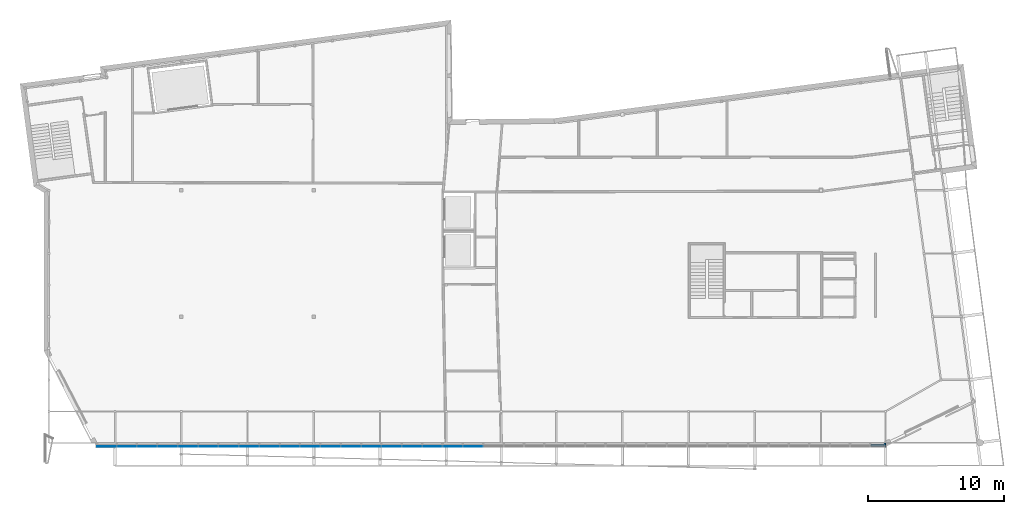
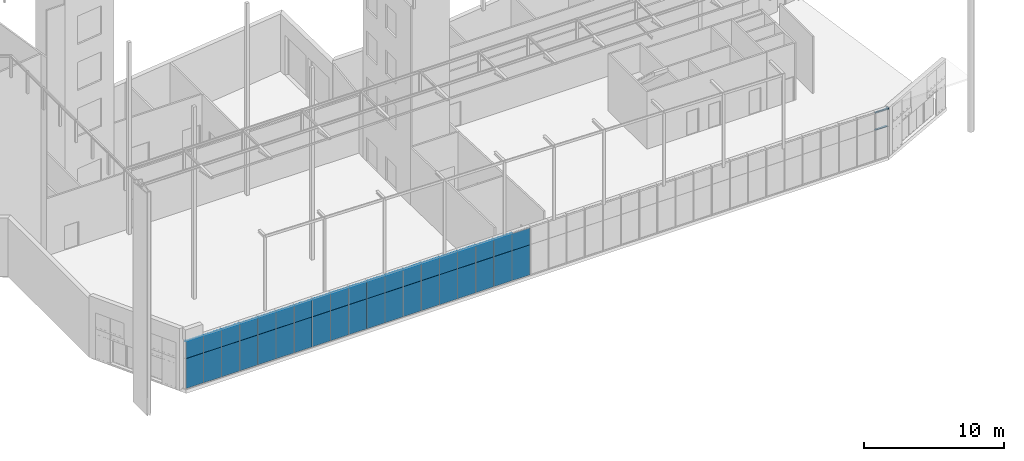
# One storey, part 20 of 40: 56 plates, 3 members, 1 element without a shape of its own.
"""IFC2X3 building model written with IfcOpenShell, lengths in metres."""

from ifc_helpers import new_model, entity, si_unit, converted_unit, money_unit, direction, frame, origin_with_axes, place, context, subcontext, project, spatial, polyline, outline, extrude, clip, halfspace, material, type_object, element, aggregate, save


model = new_model("IFC2X3")

# Units and contexts
model_context = context("Model", 3, precision=1e-05, world=origin_with_axes(), true_north=direction((0.0, 1.0)))
body_context = subcontext(model_context, "Body", "Model", "MODEL_VIEW")
ifc_project = project(units=[si_unit("LENGTHUNIT", "METRE"), si_unit("AREAUNIT", "SQUARE_METRE"), si_unit("VOLUMEUNIT", "CUBIC_METRE"), converted_unit("PLANEANGLEUNIT", "DEGREE", entity("IfcPlaneAngleMeasure", 0.0174532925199), si_unit("PLANEANGLEUNIT", "RADIAN"), dimensions=[0, 0, 0, 0, 0, 0, 0]), si_unit("SOLIDANGLEUNIT", "STERADIAN"), money_unit("EUR"), converted_unit("TIMEUNIT", "Year", entity("IfcTimeMeasure", 31556926.0), si_unit("TIMEUNIT", "SECOND"), dimensions=[0, 0, 0, 0, 0, 0, 0]), si_unit("MASSUNIT", "GRAM"), si_unit("THERMODYNAMICTEMPERATUREUNIT", "DEGREE_CELSIUS"), si_unit("LUMINOUSINTENSITYUNIT", "LUMEN")], contexts=[model_context])

# Site, building, storey
site_placement = place(None, origin_with_axes())
site = spatial("IfcSite", under=ifc_project, at=site_placement, Name="Undefined", CompositionType="ELEMENT")
building_placement = place(site_placement, origin_with_axes())
building = spatial("IfcBuilding", under=site, at=building_placement, Name="Undefined", CompositionType="ELEMENT")
storey_placement = place(building_placement, origin_with_axes())
storey = spatial("IfcBuildingStorey", under=building, at=storey_placement, Name="Rez de chauss\x8ee", CompositionType="ELEMENT", Elevation=0.0)

# Curtain wall, members, plates
curtain_wall_type = type_object("IfcCurtainWallType", Name="Type de mur-rideau", PredefinedType="NOTDEFINED")
curtain_wall_placement = place(storey_placement, frame((61.0415862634, -0.249999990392, 0.1), z_axis=(0.0, 0.0, 1.0), x_axis=(1.0, 0.0, 0.0)))
curtain_wall = element("IfcCurtainWall", 1, at=curtain_wall_placement, inside=storey, type_object=curtain_wall_type, Name="CurtainWall_02", ObjectType="CURTAIN WALL")
ifc_material_1 = material(Name="25 % 359672764")
member_type_1 = type_object("IfcMemberType", Name="Cadre 100 x 300", PredefinedType="NOTDEFINED")
member_1_placement = place(curtain_wall_placement, frame((0.558413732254, -9.60846785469e-09, 4.2), z_axis=(0.0, 0.0, 1.0), x_axis=(-1.0, 1.7206718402e-08, 0.0)))
member_1 = element("IfcMember", 2, at=member_1_placement, type_object=member_type_1, material=ifc_material_1, Name="Frame-Bnd-814", context=body_context, shape_type="Clipping", body=[
    clip(extrude(outline(polyline([(-0.0999999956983, 0.250000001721), (-0.10000000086, -0.0499999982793), (-8.60339355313e-10, -0.05), (4.30168256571e-09, 0.25), (-0.0999999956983, 0.250000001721)])), frame((0.0, 0.0, 0.0), z_axis=(0.0, 0.0, 1.0), x_axis=(-1.0, -1.7206718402e-08, 0.0)), (0.0, 0.0, 1.0), 0.1), halfspace(frame((0.05, 0.0, 0.05), z_axis=(-0.707106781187, 0.0, -0.707106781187), x_axis=(0.0, 1.0, 0.0)), True)),
])
member_type_2 = type_object("IfcMemberType", Name="Traverse 60 x 100", PredefinedType="NOTDEFINED")
member_2_placement = place(curtain_wall_placement, frame((-0.558413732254, 9.60846782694e-09, 2.7), z_axis=(1.0, -1.72067183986e-08, 0.0), x_axis=(0.0, 0.0, 1.0)))
member_2 = element("IfcMember", 3, at=member_2_placement, type_object=member_type_2, material=ifc_material_1, Name="Frame-Trs-963", context=body_context, shape_type="SweptSolid", body=[
    extrude(outline(polyline([(-0.11, -0.03), (-0.01, -0.03), (-0.01, 0.03), (-0.11, 0.03), (-0.11, -0.03)])), frame((0.0, 0.0, 0.04), z_axis=(0.0, 0.0, 1.0), x_axis=(0.0, 1.0, 0.0)), (0.0, 0.0, 1.0), 0.976827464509),
])
member_3_placement = place(curtain_wall_placement, frame((-0.558413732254, 9.60846782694e-09, 4.2), z_axis=(1.0, -1.72067183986e-08, 0.0), x_axis=(0.0, 0.0, 1.0)))
member_3 = element("IfcMember", 4, at=member_3_placement, type_object=member_type_2, material=ifc_material_1, Name="Frame-Trs-227", context=body_context, shape_type="SweptSolid", body=[
    extrude(outline(polyline([(-0.11, -0.03), (-0.01, -0.03), (-0.01, 0.03), (-0.11, 0.03), (-0.11, -0.03)])), frame((0.0, 0.0, 0.04), z_axis=(0.0, 0.0, 1.0), x_axis=(0.0, 1.0, 0.0)), (0.0, 0.0, 1.0), 0.976827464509),
])
ifc_material_2 = material(Name="Background 7019220")
plate_type_1 = type_object("IfcPlateType", Name="Panneau secondaire 1420 x 2625 x 20", PredefinedType="NOTDEFINED")
plate_1_placement = place(curtain_wall_placement, frame((-56.8084137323, 9.77486377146e-07, 1.35), z_axis=(0.0, 0.0, 1.0), x_axis=(-1.0, 1.72067183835e-08, 0.0)))
plate_1 = element("IfcPlate", 5, at=plate_1_placement, type_object=plate_type_1, material=ifc_material_2, Name="Panel-Dist-958", context=body_context, shape_type="SweptSolid", body=[
    extrude(outline(polyline([(1.49, 0.17), (1.49, 2.795), (0.07, 2.795), (0.07, 0.17), (1.49, 0.17)])), frame((0.75, 0.0, -1.45), z_axis=(0.0, 1.0, 0.0), x_axis=(-1.0, 0.0, 0.0)), (0.0, 0.0, 1.0), 0.02),
])
plate_type_2 = type_object("IfcPlateType", Name="Panneau secondaire 1480 x 2625 x 20", PredefinedType="NOTDEFINED")
plate_2_placement = place(curtain_wall_placement, frame((-55.3084137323, 9.51676299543e-07, 1.35), z_axis=(0.0, 0.0, 1.0), x_axis=(-1.0, 1.72067183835e-08, 0.0)))
plate_2 = element("IfcPlate", 6, at=plate_2_placement, type_object=plate_type_2, material=ifc_material_2, Name="Panel-Dist-958", context=body_context, shape_type="SweptSolid", body=[
    extrude(outline(polyline([(0.01, 0.17), (1.49, 0.17), (1.49, 2.795), (0.01, 2.795), (0.01, 0.17)])), frame((0.75, 0.0, -1.45), z_axis=(0.0, 1.0, 0.0), x_axis=(-1.0, 0.0, 0.0)), (0.0, 0.0, 1.0), 0.02),
])
plate_3_placement = place(curtain_wall_placement, frame((-53.8084137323, 9.25866221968e-07, 1.35), z_axis=(0.0, 0.0, 1.0), x_axis=(-1.0, 1.7206718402e-08, 0.0)))
plate_3 = element("IfcPlate", 7, at=plate_3_placement, type_object=plate_type_2, material=ifc_material_2, Name="Panel-Dist-958", context=body_context, shape_type="SweptSolid", body=[
    extrude(outline(polyline([(0.01, 0.17), (1.49, 0.17), (1.49, 2.795), (0.01, 2.795), (0.01, 0.17)])), frame((0.75, 0.0, -1.45), z_axis=(0.0, 1.0, 0.0), x_axis=(-1.0, 0.0, 0.0)), (0.0, 0.0, 1.0), 0.02),
])
plate_4_placement = place(curtain_wall_placement, frame((-52.3084137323, 9.00056144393e-07, 1.35), z_axis=(0.0, 0.0, 1.0), x_axis=(-1.0, 1.72067183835e-08, 0.0)))
plate_4 = element("IfcPlate", 8, at=plate_4_placement, type_object=plate_type_2, material=ifc_material_2, Name="Panel-Dist-958", context=body_context, shape_type="SweptSolid", body=[
    extrude(outline(polyline([(0.01, 0.17), (1.49, 0.17), (1.49, 2.795), (0.01, 2.795), (0.01, 0.17)])), frame((0.75, 0.0, -1.45), z_axis=(0.0, 1.0, 0.0), x_axis=(-1.0, 0.0, 0.0)), (0.0, 0.0, 1.0), 0.02),
])
plate_5_placement = place(curtain_wall_placement, frame((-50.8084137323, 8.74246066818e-07, 1.35), z_axis=(0.0, 0.0, 1.0), x_axis=(-1.0, 1.72067183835e-08, 0.0)))
plate_5 = element("IfcPlate", 9, at=plate_5_placement, type_object=plate_type_2, material=ifc_material_2, Name="Panel-Dist-958", context=body_context, shape_type="SweptSolid", body=[
    extrude(outline(polyline([(0.01, 0.17), (1.49, 0.17), (1.49, 2.795), (0.01, 2.795), (0.01, 0.17)])), frame((0.75, 0.0, -1.45), z_axis=(0.0, 1.0, 0.0), x_axis=(-1.0, 0.0, 0.0)), (0.0, 0.0, 1.0), 0.02),
])
plate_6_placement = place(curtain_wall_placement, frame((-49.3084137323, 8.48435989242e-07, 1.35), z_axis=(0.0, 0.0, 1.0), x_axis=(-1.0, 1.72067183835e-08, 0.0)))
plate_6 = element("IfcPlate", 10, at=plate_6_placement, type_object=plate_type_2, material=ifc_material_2, Name="Panel-Dist-958", context=body_context, shape_type="SweptSolid", body=[
    extrude(outline(polyline([(0.01, 0.17), (1.49, 0.17), (1.49, 2.795), (0.01, 2.795), (0.01, 0.17)])), frame((0.75, 0.0, -1.45), z_axis=(0.0, 1.0, 0.0), x_axis=(-1.0, 0.0, 0.0)), (0.0, 0.0, 1.0), 0.02),
])
plate_7_placement = place(curtain_wall_placement, frame((-47.8084137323, 8.22625911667e-07, 1.35), z_axis=(0.0, 0.0, 1.0), x_axis=(-1.0, 1.7206718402e-08, 0.0)))
plate_7 = element("IfcPlate", 11, at=plate_7_placement, type_object=plate_type_2, material=ifc_material_2, Name="Panel-Dist-958", context=body_context, shape_type="SweptSolid", body=[
    extrude(outline(polyline([(0.01, 0.17), (1.49, 0.17), (1.49, 2.795), (0.01, 2.795), (0.01, 0.17)])), frame((0.75, 0.0, -1.45), z_axis=(0.0, 1.0, 0.0), x_axis=(-1.0, 0.0, 0.0)), (0.0, 0.0, 1.0), 0.02),
])
plate_8_placement = place(curtain_wall_placement, frame((-46.3084137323, 7.96815834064e-07, 1.35), z_axis=(0.0, 0.0, 1.0), x_axis=(-1.0, 1.72067183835e-08, 0.0)))
plate_8 = element("IfcPlate", 12, at=plate_8_placement, type_object=plate_type_2, material=ifc_material_2, Name="Panel-Dist-958", context=body_context, shape_type="SweptSolid", body=[
    extrude(outline(polyline([(0.01, 0.17), (1.49, 0.17), (1.49, 2.795), (0.01, 2.795), (0.01, 0.17)])), frame((0.75, 0.0, -1.45), z_axis=(0.0, 1.0, 0.0), x_axis=(-1.0, 0.0, 0.0)), (0.0, 0.0, 1.0), 0.02),
])
plate_9_placement = place(curtain_wall_placement, frame((-44.8084137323, 7.71005756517e-07, 1.35), z_axis=(0.0, 0.0, 1.0), x_axis=(-1.0, 1.72067183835e-08, 0.0)))
plate_9 = element("IfcPlate", 13, at=plate_9_placement, type_object=plate_type_2, material=ifc_material_2, Name="Panel-Dist-958", context=body_context, shape_type="SweptSolid", body=[
    extrude(outline(polyline([(0.01, 0.17), (1.49, 0.17), (1.49, 2.795), (0.01, 2.795), (0.01, 0.17)])), frame((0.75, 0.0, -1.45), z_axis=(0.0, 1.0, 0.0), x_axis=(-1.0, 0.0, 0.0)), (0.0, 0.0, 1.0), 0.02),
])
plate_10_placement = place(curtain_wall_placement, frame((-43.3084137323, 7.45195678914e-07, 1.35), z_axis=(0.0, 0.0, 1.0), x_axis=(-1.0, 1.72067183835e-08, 0.0)))
plate_10 = element("IfcPlate", 14, at=plate_10_placement, type_object=plate_type_2, material=ifc_material_2, Name="Panel-Dist-958", context=body_context, shape_type="SweptSolid", body=[
    extrude(outline(polyline([(0.01, 0.17), (1.49, 0.17), (1.49, 2.795), (0.01, 2.795), (0.01, 0.17)])), frame((0.75, 0.0, -1.45), z_axis=(0.0, 1.0, 0.0), x_axis=(-1.0, 0.0, 0.0)), (0.0, 0.0, 1.0), 0.02),
])
plate_11_placement = place(curtain_wall_placement, frame((-41.8084137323, 7.19385601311e-07, 1.35), z_axis=(0.0, 0.0, 1.0), x_axis=(-1.0, 1.7206718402e-08, 0.0)))
plate_11 = element("IfcPlate", 15, at=plate_11_placement, type_object=plate_type_2, material=ifc_material_2, Name="Panel-Dist-958", context=body_context, shape_type="SweptSolid", body=[
    extrude(outline(polyline([(0.01, 0.17), (1.49, 0.17), (1.49, 2.795), (0.01, 2.795), (0.01, 0.17)])), frame((0.75, 0.0, -1.45), z_axis=(0.0, 1.0, 0.0), x_axis=(-1.0, 0.0, 0.0)), (0.0, 0.0, 1.0), 0.02),
])
plate_12_placement = place(curtain_wall_placement, frame((-40.3084137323, 6.93575523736e-07, 1.35), z_axis=(0.0, 0.0, 1.0), x_axis=(-1.0, 1.72067183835e-08, 0.0)))
plate_12 = element("IfcPlate", 16, at=plate_12_placement, type_object=plate_type_2, material=ifc_material_2, Name="Panel-Dist-958", context=body_context, shape_type="SweptSolid", body=[
    extrude(outline(polyline([(0.01, 0.17), (1.49, 0.17), (1.49, 2.795), (0.01, 2.795), (0.01, 0.17)])), frame((0.75, 0.0, -1.45), z_axis=(0.0, 1.0, 0.0), x_axis=(-1.0, 0.0, 0.0)), (0.0, 0.0, 1.0), 0.02),
])
plate_13_placement = place(curtain_wall_placement, frame((-38.8084137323, 6.67765446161e-07, 1.35), z_axis=(0.0, 0.0, 1.0), x_axis=(-1.0, 1.72067183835e-08, 0.0)))
plate_13 = element("IfcPlate", 17, at=plate_13_placement, type_object=plate_type_2, material=ifc_material_2, Name="Panel-Dist-958", context=body_context, shape_type="SweptSolid", body=[
    extrude(outline(polyline([(0.01, 0.17), (1.49, 0.17), (1.49, 2.795), (0.01, 2.795), (0.01, 0.17)])), frame((0.75, 0.0, -1.45), z_axis=(0.0, 1.0, 0.0), x_axis=(-1.0, 0.0, 0.0)), (0.0, 0.0, 1.0), 0.02),
])
plate_14_placement = place(curtain_wall_placement, frame((-37.3084137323, 6.41955368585e-07, 1.35), z_axis=(0.0, 0.0, 1.0), x_axis=(-1.0, 1.72067183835e-08, 0.0)))
plate_14 = element("IfcPlate", 18, at=plate_14_placement, type_object=plate_type_2, material=ifc_material_2, Name="Panel-Dist-958", context=body_context, shape_type="SweptSolid", body=[
    extrude(outline(polyline([(0.01, 0.17), (1.49, 0.17), (1.49, 2.795), (0.01, 2.795), (0.01, 0.17)])), frame((0.75, 0.0, -1.45), z_axis=(0.0, 1.0, 0.0), x_axis=(-1.0, 0.0, 0.0)), (0.0, 0.0, 1.0), 0.02),
])
plate_15_placement = place(curtain_wall_placement, frame((-35.8084137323, 6.1614529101e-07, 1.35), z_axis=(0.0, 0.0, 1.0), x_axis=(-1.0, 1.7206718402e-08, 0.0)))
plate_15 = element("IfcPlate", 19, at=plate_15_placement, type_object=plate_type_2, material=ifc_material_2, Name="Panel-Dist-958", context=body_context, shape_type="SweptSolid", body=[
    extrude(outline(polyline([(0.01, 0.17), (1.49, 0.17), (1.49, 2.795), (0.01, 2.795), (0.01, 0.17)])), frame((0.75, 0.0, -1.45), z_axis=(0.0, 1.0, 0.0), x_axis=(-1.0, 0.0, 0.0)), (0.0, 0.0, 1.0), 0.02),
])
plate_16_placement = place(curtain_wall_placement, frame((-34.3084137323, 5.9033521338e-07, 1.35), z_axis=(0.0, 0.0, 1.0), x_axis=(-1.0, 1.72067183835e-08, 0.0)))
plate_16 = element("IfcPlate", 20, at=plate_16_placement, type_object=plate_type_2, material=ifc_material_2, Name="Panel-Dist-958", context=body_context, shape_type="SweptSolid", body=[
    extrude(outline(polyline([(0.01, 0.17), (1.49, 0.17), (1.49, 2.795), (0.01, 2.795), (0.01, 0.17)])), frame((0.75, 0.0, -1.45), z_axis=(0.0, 1.0, 0.0), x_axis=(-1.0, 0.0, 0.0)), (0.0, 0.0, 1.0), 0.02),
])
plate_17_placement = place(curtain_wall_placement, frame((-32.8084137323, 5.64525135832e-07, 1.35), z_axis=(0.0, 0.0, 1.0), x_axis=(-1.0, 1.72067183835e-08, 0.0)))
plate_17 = element("IfcPlate", 21, at=plate_17_placement, type_object=plate_type_2, material=ifc_material_2, Name="Panel-Dist-958", context=body_context, shape_type="SweptSolid", body=[
    extrude(outline(polyline([(0.01, 0.17), (1.49, 0.17), (1.49, 2.795), (0.01, 2.795), (0.01, 0.17)])), frame((0.75, 0.0, -1.45), z_axis=(0.0, 1.0, 0.0), x_axis=(-1.0, 0.0, 0.0)), (0.0, 0.0, 1.0), 0.02),
])
plate_18_placement = place(curtain_wall_placement, frame((-31.3084137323, 5.38715058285e-07, 1.35), z_axis=(0.0, 0.0, 1.0), x_axis=(-1.0, 1.72067183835e-08, 0.0)))
plate_18 = element("IfcPlate", 22, at=plate_18_placement, type_object=plate_type_2, material=ifc_material_2, Name="Panel-Dist-958", context=body_context, shape_type="SweptSolid", body=[
    extrude(outline(polyline([(0.01, 0.17), (1.49, 0.17), (1.49, 2.795), (0.01, 2.795), (0.01, 0.17)])), frame((0.75, 0.0, -1.45), z_axis=(0.0, 1.0, 0.0), x_axis=(-1.0, 0.0, 0.0)), (0.0, 0.0, 1.0), 0.02),
])
plate_19_placement = place(curtain_wall_placement, frame((-29.8084137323, 5.12904980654e-07, 1.35), z_axis=(0.0, 0.0, 1.0), x_axis=(-1.0, 1.7206718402e-08, 0.0)))
plate_19 = element("IfcPlate", 23, at=plate_19_placement, type_object=plate_type_2, material=ifc_material_2, Name="Panel-Dist-958", context=body_context, shape_type="SweptSolid", body=[
    extrude(outline(polyline([(0.01, 0.17), (1.49, 0.17), (1.49, 2.795), (0.01, 2.795), (0.01, 0.17)])), frame((0.75, 0.0, -1.45), z_axis=(0.0, 1.0, 0.0), x_axis=(-1.0, 0.0, 0.0)), (0.0, 0.0, 1.0), 0.02),
])
plate_type_3 = type_object("IfcPlateType", Name="Panneau principal 1420 x 1490 x 20", PredefinedType="NOTDEFINED")
plate_20_placement = place(curtain_wall_placement, frame((-56.8084137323, 9.77486377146e-07, 3.45), z_axis=(0.0, 0.0, 1.0), x_axis=(-1.0, 1.72067183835e-08, 0.0)))
plate_20 = element("IfcPlate", 24, at=plate_20_placement, type_object=plate_type_3, material=ifc_material_2, Name="Panel-Dist-997", context=body_context, shape_type="SweptSolid", body=[
    extrude(outline(polyline([(0.07, 0.005), (1.49, 0.005), (1.49, 1.495), (0.07, 1.495), (0.07, 0.005)])), frame((0.75, 0.0, -0.75), z_axis=(0.0, 1.0, 0.0), x_axis=(-1.0, 0.0, 0.0)), (0.0, 0.0, 1.0), 0.02),
])
plate_type_4 = type_object("IfcPlateType", Name="Panneau secondaire 1480 x 1490 x 20", PredefinedType="NOTDEFINED")
plate_21_placement = place(curtain_wall_placement, frame((-55.3084137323, 9.51676299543e-07, 3.45), z_axis=(0.0, 0.0, 1.0), x_axis=(-1.0, 1.72067183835e-08, 0.0)))
plate_21 = element("IfcPlate", 25, at=plate_21_placement, type_object=plate_type_4, material=ifc_material_2, Name="Panel-Dist-958", context=body_context, shape_type="SweptSolid", body=[
    extrude(outline(polyline([(0.01, 0.005), (1.49, 0.005), (1.49, 1.495), (0.01, 1.495), (0.01, 0.005)])), frame((0.75, 0.0, -0.75), z_axis=(0.0, 1.0, 0.0), x_axis=(-1.0, 0.0, 0.0)), (0.0, 0.0, 1.0), 0.02),
])
plate_22_placement = place(curtain_wall_placement, frame((-52.3084137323, 9.00056144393e-07, 3.45), z_axis=(0.0, 0.0, 1.0), x_axis=(-1.0, 1.72067183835e-08, 0.0)))
plate_22 = element("IfcPlate", 26, at=plate_22_placement, type_object=plate_type_4, material=ifc_material_2, Name="Panel-Dist-958", context=body_context, shape_type="SweptSolid", body=[
    extrude(outline(polyline([(0.01, 0.005), (1.49, 0.005), (1.49, 1.495), (0.01, 1.495), (0.01, 0.005)])), frame((0.75, 0.0, -0.75), z_axis=(0.0, 1.0, 0.0), x_axis=(-1.0, 0.0, 0.0)), (0.0, 0.0, 1.0), 0.02),
])
plate_23_placement = place(curtain_wall_placement, frame((-49.3084137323, 8.48435989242e-07, 3.45), z_axis=(0.0, 0.0, 1.0), x_axis=(-1.0, 1.72067183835e-08, 0.0)))
plate_23 = element("IfcPlate", 27, at=plate_23_placement, type_object=plate_type_4, material=ifc_material_2, Name="Panel-Dist-958", context=body_context, shape_type="SweptSolid", body=[
    extrude(outline(polyline([(0.01, 0.005), (1.49, 0.005), (1.49, 1.495), (0.01, 1.495), (0.01, 0.005)])), frame((0.75, 0.0, -0.75), z_axis=(0.0, 1.0, 0.0), x_axis=(-1.0, 0.0, 0.0)), (0.0, 0.0, 1.0), 0.02),
])
plate_24_placement = place(curtain_wall_placement, frame((-46.3084137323, 7.96815834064e-07, 3.45), z_axis=(0.0, 0.0, 1.0), x_axis=(-1.0, 1.72067183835e-08, 0.0)))
plate_24 = element("IfcPlate", 28, at=plate_24_placement, type_object=plate_type_4, material=ifc_material_2, Name="Panel-Dist-958", context=body_context, shape_type="SweptSolid", body=[
    extrude(outline(polyline([(0.01, 0.005), (1.49, 0.005), (1.49, 1.495), (0.01, 1.495), (0.01, 0.005)])), frame((0.75, 0.0, -0.75), z_axis=(0.0, 1.0, 0.0), x_axis=(-1.0, 0.0, 0.0)), (0.0, 0.0, 1.0), 0.02),
])
plate_25_placement = place(curtain_wall_placement, frame((-43.3084137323, 7.45195678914e-07, 3.45), z_axis=(0.0, 0.0, 1.0), x_axis=(-1.0, 1.72067183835e-08, 0.0)))
plate_25 = element("IfcPlate", 29, at=plate_25_placement, type_object=plate_type_4, material=ifc_material_2, Name="Panel-Dist-958", context=body_context, shape_type="SweptSolid", body=[
    extrude(outline(polyline([(0.01, 0.005), (1.49, 0.005), (1.49, 1.495), (0.01, 1.495), (0.01, 0.005)])), frame((0.75, 0.0, -0.75), z_axis=(0.0, 1.0, 0.0), x_axis=(-1.0, 0.0, 0.0)), (0.0, 0.0, 1.0), 0.02),
])
plate_26_placement = place(curtain_wall_placement, frame((-40.3084137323, 6.93575523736e-07, 3.45), z_axis=(0.0, 0.0, 1.0), x_axis=(-1.0, 1.72067183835e-08, 0.0)))
plate_26 = element("IfcPlate", 30, at=plate_26_placement, type_object=plate_type_4, material=ifc_material_2, Name="Panel-Dist-958", context=body_context, shape_type="SweptSolid", body=[
    extrude(outline(polyline([(0.01, 0.005), (1.49, 0.005), (1.49, 1.495), (0.01, 1.495), (0.01, 0.005)])), frame((0.75, 0.0, -0.75), z_axis=(0.0, 1.0, 0.0), x_axis=(-1.0, 0.0, 0.0)), (0.0, 0.0, 1.0), 0.02),
])
plate_27_placement = place(curtain_wall_placement, frame((-37.3084137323, 6.41955368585e-07, 3.45), z_axis=(0.0, 0.0, 1.0), x_axis=(-1.0, 1.72067183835e-08, 0.0)))
plate_27 = element("IfcPlate", 31, at=plate_27_placement, type_object=plate_type_4, material=ifc_material_2, Name="Panel-Dist-958", context=body_context, shape_type="SweptSolid", body=[
    extrude(outline(polyline([(0.01, 0.005), (1.49, 0.005), (1.49, 1.495), (0.01, 1.495), (0.01, 0.005)])), frame((0.75, 0.0, -0.75), z_axis=(0.0, 1.0, 0.0), x_axis=(-1.0, 0.0, 0.0)), (0.0, 0.0, 1.0), 0.02),
])
plate_28_placement = place(curtain_wall_placement, frame((-34.3084137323, 5.9033521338e-07, 3.45), z_axis=(0.0, 0.0, 1.0), x_axis=(-1.0, 1.72067183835e-08, 0.0)))
plate_28 = element("IfcPlate", 32, at=plate_28_placement, type_object=plate_type_4, material=ifc_material_2, Name="Panel-Dist-958", context=body_context, shape_type="SweptSolid", body=[
    extrude(outline(polyline([(0.01, 0.005), (1.49, 0.005), (1.49, 1.495), (0.01, 1.495), (0.01, 0.005)])), frame((0.75, 0.0, -0.75), z_axis=(0.0, 1.0, 0.0), x_axis=(-1.0, 0.0, 0.0)), (0.0, 0.0, 1.0), 0.02),
])
plate_29_placement = place(curtain_wall_placement, frame((-31.3084137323, 5.38715058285e-07, 3.45), z_axis=(0.0, 0.0, 1.0), x_axis=(-1.0, 1.72067183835e-08, 0.0)))
plate_29 = element("IfcPlate", 33, at=plate_29_placement, type_object=plate_type_4, material=ifc_material_2, Name="Panel-Dist-958", context=body_context, shape_type="SweptSolid", body=[
    extrude(outline(polyline([(0.01, 0.005), (1.49, 0.005), (1.49, 1.495), (0.01, 1.495), (0.01, 0.005)])), frame((0.75, 0.0, -0.75), z_axis=(0.0, 1.0, 0.0), x_axis=(-1.0, 0.0, 0.0)), (0.0, 0.0, 1.0), 0.02),
])
plate_type_5 = type_object("IfcPlateType", Name="Panneau principal 1480 x 1490 x 20", PredefinedType="NOTDEFINED")
plate_30_placement = place(curtain_wall_placement, frame((-53.8084137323, 9.25866221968e-07, 3.45), z_axis=(0.0, 0.0, 1.0), x_axis=(-1.0, 1.7206718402e-08, 0.0)))
plate_30 = element("IfcPlate", 34, at=plate_30_placement, type_object=plate_type_5, material=ifc_material_2, Name="Panel-Dist-997", context=body_context, shape_type="SweptSolid", body=[
    extrude(outline(polyline([(0.01, 0.005), (1.49, 0.005), (1.49, 1.495), (0.01, 1.495), (0.01, 0.005)])), frame((0.75, 0.0, -0.75), z_axis=(0.0, 1.0, 0.0), x_axis=(-1.0, 0.0, 0.0)), (0.0, 0.0, 1.0), 0.02),
])
plate_31_placement = place(curtain_wall_placement, frame((-50.8084137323, 8.74246066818e-07, 3.45), z_axis=(0.0, 0.0, 1.0), x_axis=(-1.0, 1.72067183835e-08, 0.0)))
plate_31 = element("IfcPlate", 35, at=plate_31_placement, type_object=plate_type_5, material=ifc_material_2, Name="Panel-Dist-997", context=body_context, shape_type="SweptSolid", body=[
    extrude(outline(polyline([(0.01, 0.005), (1.49, 0.005), (1.49, 1.495), (0.01, 1.495), (0.01, 0.005)])), frame((0.75, 0.0, -0.75), z_axis=(0.0, 1.0, 0.0), x_axis=(-1.0, 0.0, 0.0)), (0.0, 0.0, 1.0), 0.02),
])
plate_32_placement = place(curtain_wall_placement, frame((-47.8084137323, 8.22625911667e-07, 3.45), z_axis=(0.0, 0.0, 1.0), x_axis=(-1.0, 1.7206718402e-08, 0.0)))
plate_32 = element("IfcPlate", 36, at=plate_32_placement, type_object=plate_type_5, material=ifc_material_2, Name="Panel-Dist-997", context=body_context, shape_type="SweptSolid", body=[
    extrude(outline(polyline([(0.01, 0.005), (1.49, 0.005), (1.49, 1.495), (0.01, 1.495), (0.01, 0.005)])), frame((0.75, 0.0, -0.75), z_axis=(0.0, 1.0, 0.0), x_axis=(-1.0, 0.0, 0.0)), (0.0, 0.0, 1.0), 0.02),
])
plate_33_placement = place(curtain_wall_placement, frame((-44.8084137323, 7.71005756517e-07, 3.45), z_axis=(0.0, 0.0, 1.0), x_axis=(-1.0, 1.72067183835e-08, 0.0)))
plate_33 = element("IfcPlate", 37, at=plate_33_placement, type_object=plate_type_5, material=ifc_material_2, Name="Panel-Dist-997", context=body_context, shape_type="SweptSolid", body=[
    extrude(outline(polyline([(0.01, 0.005), (1.49, 0.005), (1.49, 1.495), (0.01, 1.495), (0.01, 0.005)])), frame((0.75, 0.0, -0.75), z_axis=(0.0, 1.0, 0.0), x_axis=(-1.0, 0.0, 0.0)), (0.0, 0.0, 1.0), 0.02),
])
plate_34_placement = place(curtain_wall_placement, frame((-41.8084137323, 7.19385601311e-07, 3.45), z_axis=(0.0, 0.0, 1.0), x_axis=(-1.0, 1.7206718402e-08, 0.0)))
plate_34 = element("IfcPlate", 38, at=plate_34_placement, type_object=plate_type_5, material=ifc_material_2, Name="Panel-Dist-997", context=body_context, shape_type="SweptSolid", body=[
    extrude(outline(polyline([(0.01, 0.005), (1.49, 0.005), (1.49, 1.495), (0.01, 1.495), (0.01, 0.005)])), frame((0.75, 0.0, -0.75), z_axis=(0.0, 1.0, 0.0), x_axis=(-1.0, 0.0, 0.0)), (0.0, 0.0, 1.0), 0.02),
])
plate_35_placement = place(curtain_wall_placement, frame((-38.8084137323, 6.67765446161e-07, 3.45), z_axis=(0.0, 0.0, 1.0), x_axis=(-1.0, 1.72067183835e-08, 0.0)))
plate_35 = element("IfcPlate", 39, at=plate_35_placement, type_object=plate_type_5, material=ifc_material_2, Name="Panel-Dist-997", context=body_context, shape_type="SweptSolid", body=[
    extrude(outline(polyline([(0.01, 0.005), (1.49, 0.005), (1.49, 1.495), (0.01, 1.495), (0.01, 0.005)])), frame((0.75, 0.0, -0.75), z_axis=(0.0, 1.0, 0.0), x_axis=(-1.0, 0.0, 0.0)), (0.0, 0.0, 1.0), 0.02),
])
plate_36_placement = place(curtain_wall_placement, frame((-35.8084137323, 6.1614529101e-07, 3.45), z_axis=(0.0, 0.0, 1.0), x_axis=(-1.0, 1.7206718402e-08, 0.0)))
plate_36 = element("IfcPlate", 40, at=plate_36_placement, type_object=plate_type_5, material=ifc_material_2, Name="Panel-Dist-997", context=body_context, shape_type="SweptSolid", body=[
    extrude(outline(polyline([(0.01, 0.005), (1.49, 0.005), (1.49, 1.495), (0.01, 1.495), (0.01, 0.005)])), frame((0.75, 0.0, -0.75), z_axis=(0.0, 1.0, 0.0), x_axis=(-1.0, 0.0, 0.0)), (0.0, 0.0, 1.0), 0.02),
])
plate_37_placement = place(curtain_wall_placement, frame((-32.8084137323, 5.64525135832e-07, 3.45), z_axis=(0.0, 0.0, 1.0), x_axis=(-1.0, 1.72067183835e-08, 0.0)))
plate_37 = element("IfcPlate", 41, at=plate_37_placement, type_object=plate_type_5, material=ifc_material_2, Name="Panel-Dist-997", context=body_context, shape_type="SweptSolid", body=[
    extrude(outline(polyline([(0.01, 0.005), (1.49, 0.005), (1.49, 1.495), (0.01, 1.495), (0.01, 0.005)])), frame((0.75, 0.0, -0.75), z_axis=(0.0, 1.0, 0.0), x_axis=(-1.0, 0.0, 0.0)), (0.0, 0.0, 1.0), 0.02),
])
plate_38_placement = place(curtain_wall_placement, frame((-29.8084137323, 5.12904980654e-07, 3.45), z_axis=(0.0, 0.0, 1.0), x_axis=(-1.0, 1.7206718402e-08, 0.0)))
plate_38 = element("IfcPlate", 42, at=plate_38_placement, type_object=plate_type_5, material=ifc_material_2, Name="Panel-Dist-997", context=body_context, shape_type="SweptSolid", body=[
    extrude(outline(polyline([(0.01, 0.005), (1.49, 0.005), (1.49, 1.495), (0.01, 1.495), (0.01, 0.005)])), frame((0.75, 0.0, -0.75), z_axis=(0.0, 1.0, 0.0), x_axis=(-1.0, 0.0, 0.0)), (0.0, 0.0, 1.0), 0.02),
])
plate_type_6 = type_object("IfcPlateType", Name="Panneau secondaire 1480 x 25 x 20", PredefinedType="NOTDEFINED")
plate_39_placement = place(curtain_wall_placement, frame((-55.3084137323, 9.51676299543e-07, 4.25), z_axis=(0.0, 0.0, 1.0), x_axis=(-1.0, 1.72067183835e-08, 0.0)))
plate_39 = element("IfcPlate", 43, at=plate_39_placement, type_object=plate_type_6, material=ifc_material_2, Name="Panel-Dist-121", context=body_context, shape_type="SweptSolid", body=[
    extrude(outline(polyline([(0.01, 0.005), (1.49, 0.005), (1.49, 0.03), (0.01, 0.03), (0.01, 0.005)])), frame((0.75, 0.0, -0.05), z_axis=(0.0, 1.0, 0.0), x_axis=(-1.0, 0.0, 0.0)), (0.0, 0.0, 1.0), 0.02),
])
plate_40_placement = place(curtain_wall_placement, frame((-53.8084137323, 9.25866221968e-07, 4.25), z_axis=(0.0, 0.0, 1.0), x_axis=(-1.0, 1.7206718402e-08, 0.0)))
plate_40 = element("IfcPlate", 44, at=plate_40_placement, type_object=plate_type_6, material=ifc_material_2, Name="Panel-Dist-122", context=body_context, shape_type="SweptSolid", body=[
    extrude(outline(polyline([(0.01, 0.005), (1.49, 0.005), (1.49, 0.03), (0.01, 0.03), (0.01, 0.005)])), frame((0.75, 0.0, -0.05), z_axis=(0.0, 1.0, 0.0), x_axis=(-1.0, 0.0, 0.0)), (0.0, 0.0, 1.0), 0.02),
])
plate_41_placement = place(curtain_wall_placement, frame((-52.3084137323, 9.00056144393e-07, 4.25), z_axis=(0.0, 0.0, 1.0), x_axis=(-1.0, 1.72067183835e-08, 0.0)))
plate_41 = element("IfcPlate", 45, at=plate_41_placement, type_object=plate_type_6, material=ifc_material_2, Name="Panel-Dist-123", context=body_context, shape_type="SweptSolid", body=[
    extrude(outline(polyline([(0.01, 0.005), (1.49, 0.005), (1.49, 0.03), (0.01, 0.03), (0.01, 0.005)])), frame((0.75, 0.0, -0.05), z_axis=(0.0, 1.0, 0.0), x_axis=(-1.0, 0.0, 0.0)), (0.0, 0.0, 1.0), 0.02),
])
plate_42_placement = place(curtain_wall_placement, frame((-50.8084137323, 8.74246066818e-07, 4.25), z_axis=(0.0, 0.0, 1.0), x_axis=(-1.0, 1.72067183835e-08, 0.0)))
plate_42 = element("IfcPlate", 46, at=plate_42_placement, type_object=plate_type_6, material=ifc_material_2, Name="Panel-Dist-124", context=body_context, shape_type="SweptSolid", body=[
    extrude(outline(polyline([(0.01, 0.005), (1.49, 0.005), (1.49, 0.03), (0.01, 0.03), (0.01, 0.005)])), frame((0.75, 0.0, -0.05), z_axis=(0.0, 1.0, 0.0), x_axis=(-1.0, 0.0, 0.0)), (0.0, 0.0, 1.0), 0.02),
])
plate_43_placement = place(curtain_wall_placement, frame((-49.3084137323, 8.48435989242e-07, 4.25), z_axis=(0.0, 0.0, 1.0), x_axis=(-1.0, 1.72067183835e-08, 0.0)))
plate_43 = element("IfcPlate", 47, at=plate_43_placement, type_object=plate_type_6, material=ifc_material_2, Name="Panel-Dist-125", context=body_context, shape_type="SweptSolid", body=[
    extrude(outline(polyline([(0.01, 0.005), (1.49, 0.005), (1.49, 0.03), (0.01, 0.03), (0.01, 0.005)])), frame((0.75, 0.0, -0.05), z_axis=(0.0, 1.0, 0.0), x_axis=(-1.0, 0.0, 0.0)), (0.0, 0.0, 1.0), 0.02),
])
plate_44_placement = place(curtain_wall_placement, frame((-47.8084137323, 8.22625911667e-07, 4.25), z_axis=(0.0, 0.0, 1.0), x_axis=(-1.0, 1.7206718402e-08, 0.0)))
plate_44 = element("IfcPlate", 48, at=plate_44_placement, type_object=plate_type_6, material=ifc_material_2, Name="Panel-Dist-126", context=body_context, shape_type="SweptSolid", body=[
    extrude(outline(polyline([(0.01, 0.005), (1.49, 0.005), (1.49, 0.03), (0.01, 0.03), (0.01, 0.005)])), frame((0.75, 0.0, -0.05), z_axis=(0.0, 1.0, 0.0), x_axis=(-1.0, 0.0, 0.0)), (0.0, 0.0, 1.0), 0.02),
])
plate_45_placement = place(curtain_wall_placement, frame((-46.3084137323, 7.96815834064e-07, 4.25), z_axis=(0.0, 0.0, 1.0), x_axis=(-1.0, 1.72067183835e-08, 0.0)))
plate_45 = element("IfcPlate", 49, at=plate_45_placement, type_object=plate_type_6, material=ifc_material_2, Name="Panel-Dist-127", context=body_context, shape_type="SweptSolid", body=[
    extrude(outline(polyline([(0.01, 0.005), (1.49, 0.005), (1.49, 0.03), (0.01, 0.03), (0.01, 0.005)])), frame((0.75, 0.0, -0.05), z_axis=(0.0, 1.0, 0.0), x_axis=(-1.0, 0.0, 0.0)), (0.0, 0.0, 1.0), 0.02),
])
plate_46_placement = place(curtain_wall_placement, frame((-44.8084137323, 7.71005756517e-07, 4.25), z_axis=(0.0, 0.0, 1.0), x_axis=(-1.0, 1.72067183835e-08, 0.0)))
plate_46 = element("IfcPlate", 50, at=plate_46_placement, type_object=plate_type_6, material=ifc_material_2, Name="Panel-Dist-128", context=body_context, shape_type="SweptSolid", body=[
    extrude(outline(polyline([(0.01, 0.005), (1.49, 0.005), (1.49, 0.03), (0.01, 0.03), (0.01, 0.005)])), frame((0.75, 0.0, -0.05), z_axis=(0.0, 1.0, 0.0), x_axis=(-1.0, 0.0, 0.0)), (0.0, 0.0, 1.0), 0.02),
])
plate_47_placement = place(curtain_wall_placement, frame((-43.3084137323, 7.45195678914e-07, 4.25), z_axis=(0.0, 0.0, 1.0), x_axis=(-1.0, 1.72067183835e-08, 0.0)))
plate_47 = element("IfcPlate", 51, at=plate_47_placement, type_object=plate_type_6, material=ifc_material_2, Name="Panel-Dist-129", context=body_context, shape_type="SweptSolid", body=[
    extrude(outline(polyline([(0.01, 0.005), (1.49, 0.005), (1.49, 0.03), (0.01, 0.03), (0.01, 0.005)])), frame((0.75, 0.0, -0.05), z_axis=(0.0, 1.0, 0.0), x_axis=(-1.0, 0.0, 0.0)), (0.0, 0.0, 1.0), 0.02),
])
plate_48_placement = place(curtain_wall_placement, frame((-41.8084137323, 7.19385601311e-07, 4.25), z_axis=(0.0, 0.0, 1.0), x_axis=(-1.0, 1.7206718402e-08, 0.0)))
plate_48 = element("IfcPlate", 52, at=plate_48_placement, type_object=plate_type_6, material=ifc_material_2, Name="Panel-Dist-130", context=body_context, shape_type="SweptSolid", body=[
    extrude(outline(polyline([(0.01, 0.005), (1.49, 0.005), (1.49, 0.03), (0.01, 0.03), (0.01, 0.005)])), frame((0.75, 0.0, -0.05), z_axis=(0.0, 1.0, 0.0), x_axis=(-1.0, 0.0, 0.0)), (0.0, 0.0, 1.0), 0.02),
])
plate_49_placement = place(curtain_wall_placement, frame((-40.3084137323, 6.93575523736e-07, 4.25), z_axis=(0.0, 0.0, 1.0), x_axis=(-1.0, 1.72067183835e-08, 0.0)))
plate_49 = element("IfcPlate", 53, at=plate_49_placement, type_object=plate_type_6, material=ifc_material_2, Name="Panel-Dist-131", context=body_context, shape_type="SweptSolid", body=[
    extrude(outline(polyline([(0.01, 0.005), (1.49, 0.005), (1.49, 0.03), (0.01, 0.03), (0.01, 0.005)])), frame((0.75, 0.0, -0.05), z_axis=(0.0, 1.0, 0.0), x_axis=(-1.0, 0.0, 0.0)), (0.0, 0.0, 1.0), 0.02),
])
plate_50_placement = place(curtain_wall_placement, frame((-38.8084137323, 6.67765446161e-07, 4.25), z_axis=(0.0, 0.0, 1.0), x_axis=(-1.0, 1.72067183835e-08, 0.0)))
plate_50 = element("IfcPlate", 54, at=plate_50_placement, type_object=plate_type_6, material=ifc_material_2, Name="Panel-Dist-132", context=body_context, shape_type="SweptSolid", body=[
    extrude(outline(polyline([(0.01, 0.005), (1.49, 0.005), (1.49, 0.03), (0.01, 0.03), (0.01, 0.005)])), frame((0.75, 0.0, -0.05), z_axis=(0.0, 1.0, 0.0), x_axis=(-1.0, 0.0, 0.0)), (0.0, 0.0, 1.0), 0.02),
])
plate_51_placement = place(curtain_wall_placement, frame((-37.3084137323, 6.41955368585e-07, 4.25), z_axis=(0.0, 0.0, 1.0), x_axis=(-1.0, 1.72067183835e-08, 0.0)))
plate_51 = element("IfcPlate", 55, at=plate_51_placement, type_object=plate_type_6, material=ifc_material_2, Name="Panel-Dist-133", context=body_context, shape_type="SweptSolid", body=[
    extrude(outline(polyline([(0.01, 0.005), (1.49, 0.005), (1.49, 0.03), (0.01, 0.03), (0.01, 0.005)])), frame((0.75, 0.0, -0.05), z_axis=(0.0, 1.0, 0.0), x_axis=(-1.0, 0.0, 0.0)), (0.0, 0.0, 1.0), 0.02),
])
plate_52_placement = place(curtain_wall_placement, frame((-35.8084137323, 6.1614529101e-07, 4.25), z_axis=(0.0, 0.0, 1.0), x_axis=(-1.0, 1.7206718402e-08, 0.0)))
plate_52 = element("IfcPlate", 56, at=plate_52_placement, type_object=plate_type_6, material=ifc_material_2, Name="Panel-Dist-134", context=body_context, shape_type="SweptSolid", body=[
    extrude(outline(polyline([(0.01, 0.005), (1.49, 0.005), (1.49, 0.03), (0.01, 0.03), (0.01, 0.005)])), frame((0.75, 0.0, -0.05), z_axis=(0.0, 1.0, 0.0), x_axis=(-1.0, 0.0, 0.0)), (0.0, 0.0, 1.0), 0.02),
])
plate_53_placement = place(curtain_wall_placement, frame((-34.3084137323, 5.9033521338e-07, 4.25), z_axis=(0.0, 0.0, 1.0), x_axis=(-1.0, 1.72067183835e-08, 0.0)))
plate_53 = element("IfcPlate", 57, at=plate_53_placement, type_object=plate_type_6, material=ifc_material_2, Name="Panel-Dist-135", context=body_context, shape_type="SweptSolid", body=[
    extrude(outline(polyline([(0.01, 0.005), (1.49, 0.005), (1.49, 0.03), (0.01, 0.03), (0.01, 0.005)])), frame((0.75, 0.0, -0.05), z_axis=(0.0, 1.0, 0.0), x_axis=(-1.0, 0.0, 0.0)), (0.0, 0.0, 1.0), 0.02),
])
plate_54_placement = place(curtain_wall_placement, frame((-32.8084137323, 5.64525135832e-07, 4.25), z_axis=(0.0, 0.0, 1.0), x_axis=(-1.0, 1.72067183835e-08, 0.0)))
plate_54 = element("IfcPlate", 58, at=plate_54_placement, type_object=plate_type_6, material=ifc_material_2, Name="Panel-Dist-136", context=body_context, shape_type="SweptSolid", body=[
    extrude(outline(polyline([(0.01, 0.005), (1.49, 0.005), (1.49, 0.03), (0.01, 0.03), (0.01, 0.005)])), frame((0.75, 0.0, -0.05), z_axis=(0.0, 1.0, 0.0), x_axis=(-1.0, 0.0, 0.0)), (0.0, 0.0, 1.0), 0.02),
])
plate_55_placement = place(curtain_wall_placement, frame((-31.3084137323, 5.38715058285e-07, 4.25), z_axis=(0.0, 0.0, 1.0), x_axis=(-1.0, 1.72067183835e-08, 0.0)))
plate_55 = element("IfcPlate", 59, at=plate_55_placement, type_object=plate_type_6, material=ifc_material_2, Name="Panel-Dist-137", context=body_context, shape_type="SweptSolid", body=[
    extrude(outline(polyline([(0.01, 0.005), (1.49, 0.005), (1.49, 0.03), (0.01, 0.03), (0.01, 0.005)])), frame((0.75, 0.0, -0.05), z_axis=(0.0, 1.0, 0.0), x_axis=(-1.0, 0.0, 0.0)), (0.0, 0.0, 1.0), 0.02),
])
plate_type_7 = type_object("IfcPlateType", Name="Panneau secondaire 1420 x 25 x 20", PredefinedType="NOTDEFINED")
plate_56_placement = place(curtain_wall_placement, frame((-56.8084137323, 9.77486377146e-07, 4.25), z_axis=(0.0, 0.0, 1.0), x_axis=(-1.0, 1.72067183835e-08, 0.0)))
plate_56 = element("IfcPlate", 60, at=plate_56_placement, type_object=plate_type_7, material=ifc_material_2, Name="Panel-Dist-120", context=body_context, shape_type="SweptSolid", body=[
    extrude(outline(polyline([(0.07, 0.005), (1.49, 0.005), (1.49, 0.03), (0.07, 0.03), (0.07, 0.005)])), frame((0.75, 0.0, -0.05), z_axis=(0.0, 1.0, 0.0), x_axis=(-1.0, 0.0, 0.0)), (0.0, 0.0, 1.0), 0.02),
])
aggregate(curtain_wall, [plate_1, plate_2, plate_3, plate_4, plate_5, plate_6, plate_7, plate_8, plate_9, plate_10, plate_11, plate_12, plate_13, plate_14, plate_15, plate_16, plate_17, plate_18, plate_19, plate_20, plate_21, plate_30, plate_22, plate_31, plate_23, plate_32, plate_24, plate_33, plate_25, plate_34, plate_26, plate_35, plate_27, plate_36, plate_28, plate_37, plate_29, plate_38, plate_56, plate_39, plate_40, plate_41, plate_42, plate_43, plate_44, plate_45, plate_46, plate_47, plate_48, plate_49, plate_50, plate_51, plate_52, plate_53, plate_54, plate_55, member_2, member_3, member_1])

save(model, "model.ifc")
